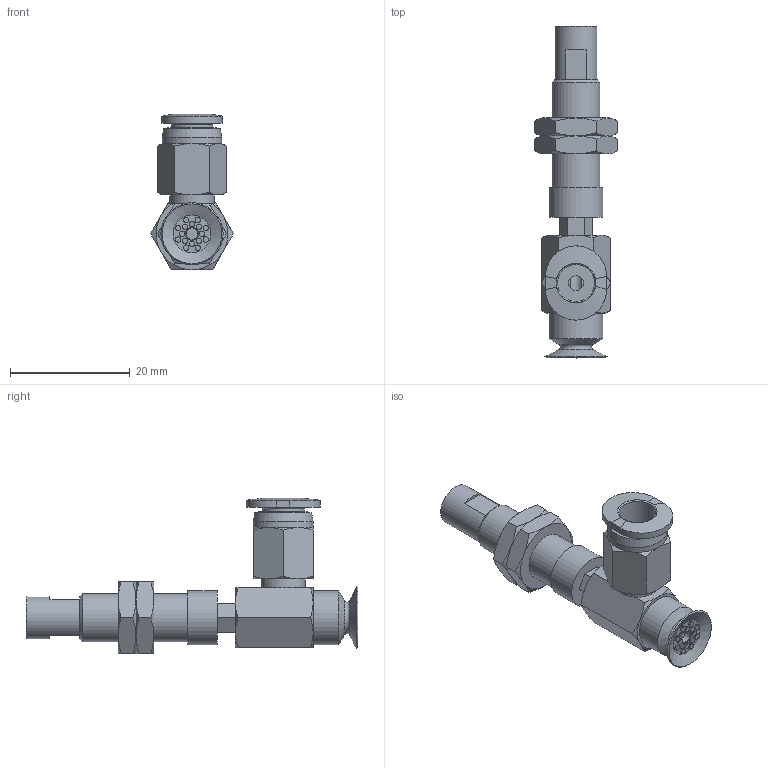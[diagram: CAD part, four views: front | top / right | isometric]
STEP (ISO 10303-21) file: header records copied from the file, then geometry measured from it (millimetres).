
FILE_DESCRIPTION(('STEP AP203'),'1');
FILE_NAME('-O.stp','2025-03-13T02:47:17',(' '),(' '),'Spatial InterOp 3D',' ',' ');
FILE_SCHEMA(('CONFIG_CONTROL_DESIGN'));
Length unit declared in the file: millimetre
Products named in the file (7): BNABPAYH-10A-3-※-O; NAPATH-10A-3--M; NAPATH-10A-3--F; Nut-10A-S; CONNECTOR-10A-3-PA; PC-C_06-M5; BPAG-10A-※
Assembly tree (7 placements, depth 2):
  BNABPAYH-10A-3-※-O
    NAPATH-10A-3--M
    NAPATH-10A-3--F
    Nut-10A-S  x2
    CONNECTOR-10A-3-PA
    PC-C_06-M5
    BPAG-10A-※
Bounding box: 13.86 x 55.5 x 25.98 mm (x, y, z)
Volume: 4189.5 mm3; surface area: 5213.6 mm2
Topology: 7 solids, 7 shells, 222 faces, 449 edges, 275 vertices
Faces by surface type: plane 96, cone 67, cylinder 40, torus 12, bspline 4, revolution 3
Full cylindrical faces by diameter (mm): 0.9 x16, 2 x2, 4 x4, 4.134 x2, 5 x2, 6 x2, 7 x2, 7.188 x2, 7.4 x1, 8 x1, 8.2 x1, 9 x2, 10 x1
Entity records: 5584 total; most frequent: CARTESIAN_POINT 1478, DIRECTION 785, ORIENTED_EDGE 650, AXIS2_PLACEMENT_3D 346, EDGE_CURVE 325, EDGE_LOOP 308, FACE_OUTER_BOUND 248, VERTEX_POINT 237
